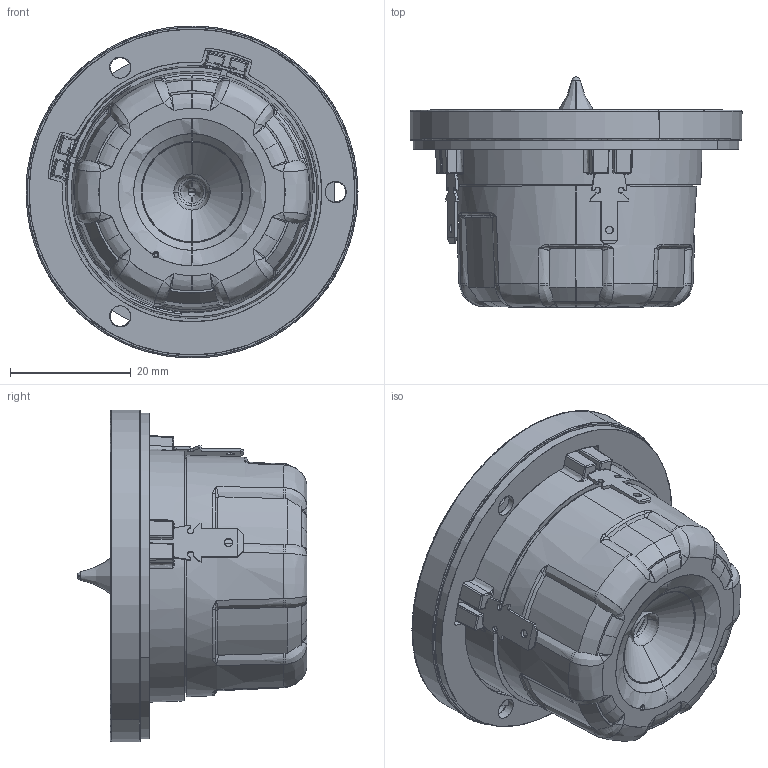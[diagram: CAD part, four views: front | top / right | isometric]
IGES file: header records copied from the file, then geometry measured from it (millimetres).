
Start section: SolidWorks IGES file using analytic representation for surfaces
Global section: file name: W:\TT\WEB 3D ENHEDER VER2\R2004_602200\R2004-602200.IGS; native system: SolidWorks 2024; preprocessor: SolidWorks 2024; author: jsn; date: 240103.143555; units: millimetre
Bounding box: 55 x 38.1 x 55 mm (x, y, z)
Surface area: 12155.1 mm2 (no closed solid volume)
Topology: 0 solids, 0 shells, 599 faces, 6399 edges, 6371 vertices
Faces by surface type: bspline 387, revolution 212
